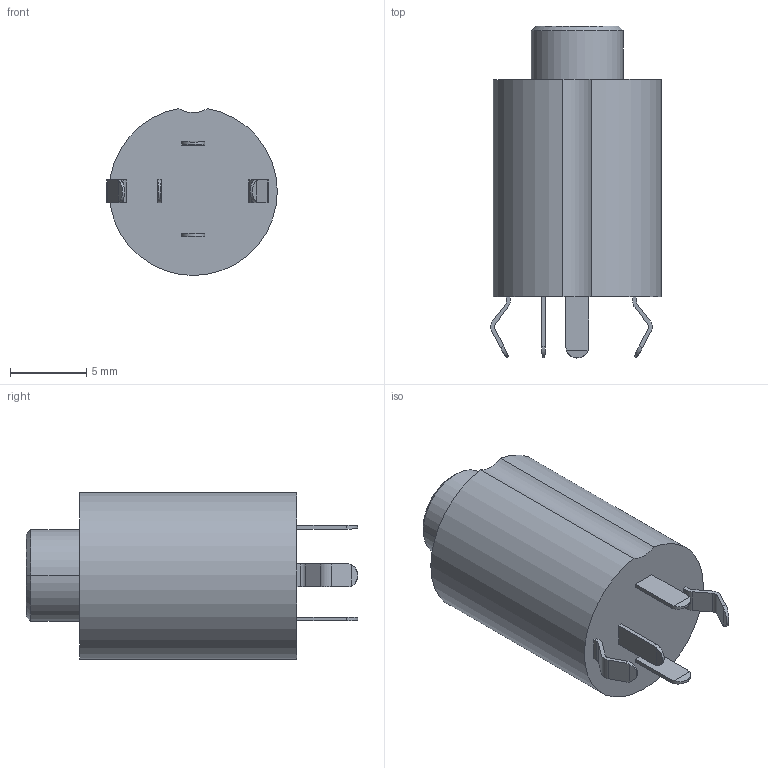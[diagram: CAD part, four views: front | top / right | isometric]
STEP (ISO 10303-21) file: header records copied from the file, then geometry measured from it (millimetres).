
FILE_DESCRIPTION((''),'2;1');
FILE_NAME('DM35A001-05DP','2026-06-27T',('WYH'),(''),'PRO/ENGINEER BY PARAMETRIC TECHNOLOGY CORPORATION, 2013040','PRO/ENGINEER BY PARAMETRIC TECHNOLOGY CORPORATION, 2013040','');
FILE_SCHEMA(('CONFIG_CONTROL_DESIGN'));
Length unit declared in the file: millimetre
Products named in the file (1): DM35A001-05DP
Bounding box: 11.16 x 21.7 x 10.92 mm (x, y, z)
Volume: 1326.2 mm3; surface area: 947.3 mm2
Topology: 1 solids, 1 shells, 65 faces, 164 edges, 108 vertices
Faces by surface type: plane 42, cylinder 19, cone 4
Entity records: 2121 total; most frequent: CARTESIAN_POINT 482, DIRECTION 336, ORIENTED_EDGE 328, EDGE_CURVE 164, AXIS2_PLACEMENT_3D 117, VERTEX_POINT 108, VECTOR 102, LINE 102
